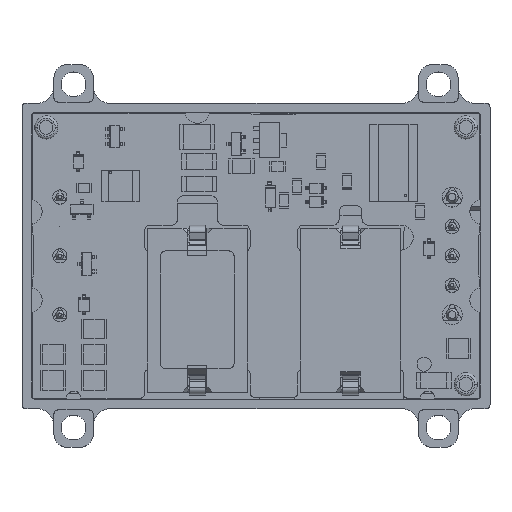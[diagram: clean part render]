
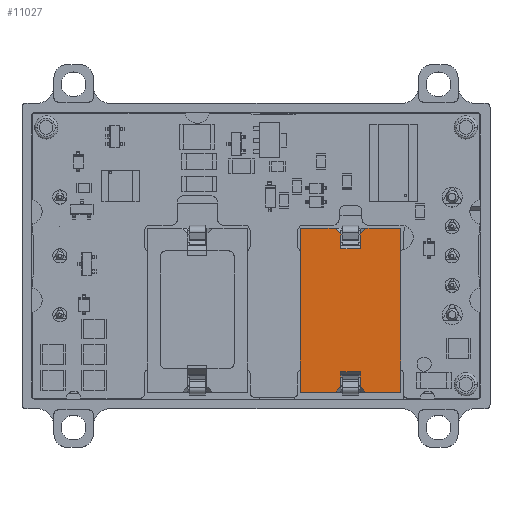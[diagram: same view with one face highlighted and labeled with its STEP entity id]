
A CAD part, top view. The second image highlights one B-rep face of the part: STEP entity #11027.
In plain terms, the highlighted planar face has unit normal (0, 0, 1).
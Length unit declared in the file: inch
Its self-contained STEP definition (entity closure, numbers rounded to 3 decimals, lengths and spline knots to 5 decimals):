
#10401=DIRECTION('',(0.707,0.707,0.));
#10402=VECTOR('',#10401,0.04172);
#10403=CARTESIAN_POINT('',(-0.418,-0.0785,0.083));
#10404=LINE('',#10403,#10402);
#10408=DIRECTION('',(-1.,0.,0.));
#10409=VECTOR('',#10408,0.0745);
#10410=CARTESIAN_POINT('',(-0.314,-0.049,0.083));
#10411=LINE('',#10410,#10409);
#10415=DIRECTION('',(0.,1.,0.));
#10416=VECTOR('',#10415,0.098);
#10417=CARTESIAN_POINT('',(-0.314,-0.049,0.083));
#10418=LINE('',#10417,#10416);
#10422=DIRECTION('',(-1.,0.,0.));
#10423=VECTOR('',#10422,0.0745);
#10424=CARTESIAN_POINT('',(-0.314,0.049,0.083));
#10425=LINE('',#10424,#10423);
#10429=DIRECTION('',(0.707,-0.707,0.));
#10430=VECTOR('',#10429,0.04172);
#10431=CARTESIAN_POINT('',(-0.418,0.0785,0.083));
#10432=LINE('',#10431,#10430);
#10436=DIRECTION('',(0.,-1.,0.));
#10437=VECTOR('',#10436,0.1775);
#10438=CARTESIAN_POINT('',(-0.418,0.256,0.083));
#10439=LINE('',#10438,#10437);
#10443=DIRECTION('',(-1.,0.,0.));
#10444=VECTOR('',#10443,0.836);
#10445=CARTESIAN_POINT('',(0.418,0.256,0.083));
#10446=LINE('',#10445,#10444);
#10450=DIRECTION('',(0.,1.,0.));
#10451=VECTOR('',#10450,0.1775);
#10452=CARTESIAN_POINT('',(0.418,0.0785,0.083));
#10453=LINE('',#10452,#10451);
#10457=DIRECTION('',(-0.707,-0.707,0.));
#10458=VECTOR('',#10457,0.04172);
#10459=CARTESIAN_POINT('',(0.418,0.0785,0.083));
#10460=LINE('',#10459,#10458);
#10464=DIRECTION('',(1.,0.,0.));
#10465=VECTOR('',#10464,0.0745);
#10466=CARTESIAN_POINT('',(0.314,0.049,0.083));
#10467=LINE('',#10466,#10465);
#10471=DIRECTION('',(0.,1.,0.));
#10472=VECTOR('',#10471,0.098);
#10473=CARTESIAN_POINT('',(0.314,-0.049,0.083));
#10474=LINE('',#10473,#10472);
#10478=DIRECTION('',(1.,0.,0.));
#10479=VECTOR('',#10478,0.0745);
#10480=CARTESIAN_POINT('',(0.314,-0.049,0.083));
#10481=LINE('',#10480,#10479);
#10485=DIRECTION('',(-0.707,0.707,0.));
#10486=VECTOR('',#10485,0.04172);
#10487=CARTESIAN_POINT('',(0.418,-0.0785,0.083));
#10488=LINE('',#10487,#10486);
#10492=DIRECTION('',(0.,1.,0.));
#10493=VECTOR('',#10492,0.1775);
#10494=CARTESIAN_POINT('',(0.418,-0.256,0.083));
#10495=LINE('',#10494,#10493);
#10499=DIRECTION('',(1.,0.,0.));
#10500=VECTOR('',#10499,0.836);
#10501=CARTESIAN_POINT('',(-0.418,-0.256,0.083));
#10502=LINE('',#10501,#10500);
#10506=DIRECTION('',(0.,-1.,0.));
#10507=VECTOR('',#10506,0.1775);
#10508=CARTESIAN_POINT('',(-0.418,-0.0785,0.083));
#10509=LINE('',#10508,#10507);
#10847=CARTESIAN_POINT('',(-0.418,-0.256,0.083));
#10848=CARTESIAN_POINT('',(0.418,-0.256,0.083));
#10849=VERTEX_POINT('',#10847);
#10850=VERTEX_POINT('',#10848);
#10851=CARTESIAN_POINT('',(0.418,0.256,0.083));
#10852=CARTESIAN_POINT('',(-0.418,0.256,0.083));
#10853=VERTEX_POINT('',#10851);
#10854=VERTEX_POINT('',#10852);
#10875=CARTESIAN_POINT('',(0.314,-0.049,0.083));
#10876=CARTESIAN_POINT('',(0.314,0.049,0.083));
#10877=VERTEX_POINT('',#10875);
#10878=VERTEX_POINT('',#10876);
#10899=CARTESIAN_POINT('',(-0.314,-0.049,0.083));
#10900=CARTESIAN_POINT('',(-0.314,0.049,0.083));
#10901=VERTEX_POINT('',#10899);
#10902=VERTEX_POINT('',#10900);
#10903=CARTESIAN_POINT('',(0.418,-0.0785,0.083));
#10904=CARTESIAN_POINT('',(0.3885,-0.049,0.083));
#10905=VERTEX_POINT('',#10903);
#10906=VERTEX_POINT('',#10904);
#10911=CARTESIAN_POINT('',(0.418,0.0785,0.083));
#10912=CARTESIAN_POINT('',(0.3885,0.049,0.083));
#10913=VERTEX_POINT('',#10911);
#10914=VERTEX_POINT('',#10912);
#10919=CARTESIAN_POINT('',(-0.418,0.0785,0.083));
#10920=CARTESIAN_POINT('',(-0.3885,0.049,0.083));
#10921=VERTEX_POINT('',#10919);
#10922=VERTEX_POINT('',#10920);
#10927=CARTESIAN_POINT('',(-0.418,-0.0785,0.083));
#10928=CARTESIAN_POINT('',(-0.3885,-0.049,0.083));
#10929=VERTEX_POINT('',#10927);
#10930=VERTEX_POINT('',#10928);
#10991=CARTESIAN_POINT('',(0.,0.,0.083));
#10992=DIRECTION('',(0.,0.,1.));
#10993=DIRECTION('',(1.,0.,0.));
#10994=AXIS2_PLACEMENT_3D('',#10991,#10992,#10993);
#10995=PLANE('',#10994);
#10996=ORIENTED_EDGE('',*,*,#10983,.T.);
#10998=ORIENTED_EDGE('',*,*,#10997,.F.);
#11000=ORIENTED_EDGE('',*,*,#10999,.T.);
#11002=ORIENTED_EDGE('',*,*,#11001,.T.);
#11004=ORIENTED_EDGE('',*,*,#11003,.F.);
#11005=ORIENTED_EDGE('',*,*,#10965,.F.);
#11007=ORIENTED_EDGE('',*,*,#11006,.F.);
#11009=ORIENTED_EDGE('',*,*,#11008,.F.);
#11011=ORIENTED_EDGE('',*,*,#11010,.T.);
#11013=ORIENTED_EDGE('',*,*,#11012,.F.);
#11015=ORIENTED_EDGE('',*,*,#11014,.F.);
#11017=ORIENTED_EDGE('',*,*,#11016,.T.);
#11019=ORIENTED_EDGE('',*,*,#11018,.F.);
#11021=ORIENTED_EDGE('',*,*,#11020,.F.);
#11023=ORIENTED_EDGE('',*,*,#11022,.F.);
#11024=ORIENTED_EDGE('',*,*,#10958,.F.);
#11025=EDGE_LOOP('',(#10996,#10998,#11000,#11002,#11004,#11005,#11007,#11009,
#11011,#11013,#11015,#11017,#11019,#11021,#11023,#11024));
#11026=FACE_OUTER_BOUND('',#11025,.F.);
#10958=EDGE_CURVE('',#10929,#10849,#10509,.T.);
#10965=EDGE_CURVE('',#10854,#10921,#10439,.T.);
#10983=EDGE_CURVE('',#10929,#10930,#10404,.T.);
#10997=EDGE_CURVE('',#10901,#10930,#10411,.T.);
#10999=EDGE_CURVE('',#10901,#10902,#10418,.T.);
#11001=EDGE_CURVE('',#10902,#10922,#10425,.T.);
#11003=EDGE_CURVE('',#10921,#10922,#10432,.T.);
#11006=EDGE_CURVE('',#10853,#10854,#10446,.T.);
#11008=EDGE_CURVE('',#10913,#10853,#10453,.T.);
#11010=EDGE_CURVE('',#10913,#10914,#10460,.T.);
#11012=EDGE_CURVE('',#10878,#10914,#10467,.T.);
#11014=EDGE_CURVE('',#10877,#10878,#10474,.T.);
#11016=EDGE_CURVE('',#10877,#10906,#10481,.T.);
#11018=EDGE_CURVE('',#10905,#10906,#10488,.T.);
#11020=EDGE_CURVE('',#10850,#10905,#10495,.T.);
#11022=EDGE_CURVE('',#10849,#10850,#10502,.T.);
#11027=ADVANCED_FACE('',(#11026),#10995,.T.);
